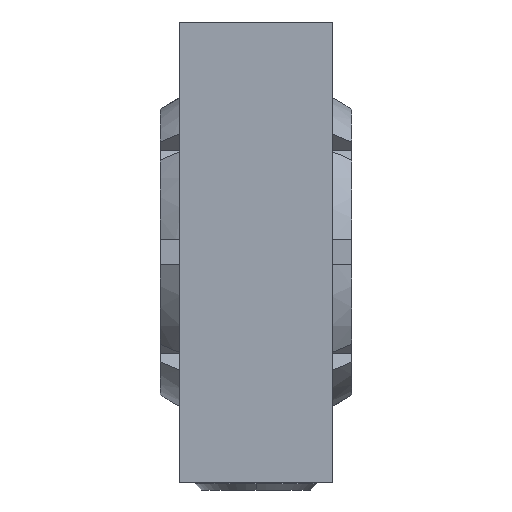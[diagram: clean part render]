
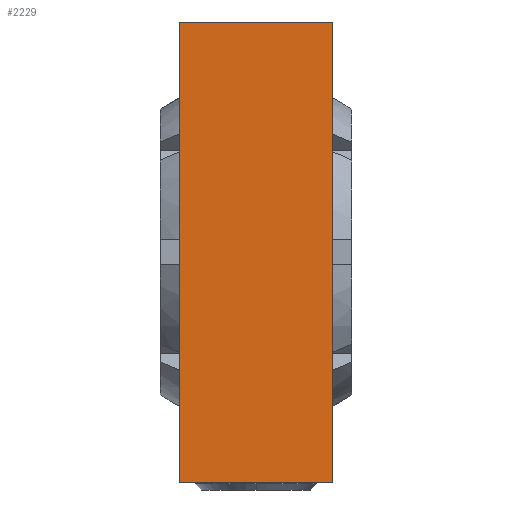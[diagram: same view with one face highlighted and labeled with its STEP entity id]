
A CAD part, left-side view. The second image highlights one B-rep face of the part: STEP entity #2229.
In plain terms, the highlighted planar face has unit normal (-1, 0, 0).
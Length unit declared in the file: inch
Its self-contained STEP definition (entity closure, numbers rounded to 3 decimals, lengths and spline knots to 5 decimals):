
#813 = AXIS2_PLACEMENT_3D ( 'NONE', #16915, #16914, #16913 ) ;
#1137 = CARTESIAN_POINT ( 'NONE',  ( -1., 0.5, -0.75 ) ) ;
#1578 = DIRECTION ( 'NONE',  ( 0., -1., 0. ) ) ;
#1579 = CARTESIAN_POINT ( 'NONE',  ( -1., 0.5, 0.75 ) ) ;
#1628 = DIRECTION ( 'NONE',  ( 0., 0., 1. ) ) ;
#1629 = CARTESIAN_POINT ( 'NONE',  ( -1., 0., 0.75 ) ) ;
#1662 = CARTESIAN_POINT ( 'NONE',  ( -1., 0., -0.75 ) ) ;
#1887 = EDGE_CURVE ( 'NONE', #11318, #11473, #2601, .T. ) ;
#2229 = ADVANCED_FACE ( 'NONE', ( #4130 ), #16916, .F. ) ;
#2601 = LINE ( 'NONE', #10125, #2602 ) ;
#2602 = VECTOR ( 'NONE', #10124, 39.37008 ) ;
#3212 = ORIENTED_EDGE ( 'NONE', *, *, #17404, .T. ) ;
#3213 = ORIENTED_EDGE ( 'NONE', *, *, #17432, .F. ) ;
#3214 = ORIENTED_EDGE ( 'NONE', *, *, #9563, .F. ) ;
#3215 = ORIENTED_EDGE ( 'NONE', *, *, #1887, .T. ) ;
#4130 = FACE_OUTER_BOUND ( 'NONE', #19129, .T. ) ;
#9563 = EDGE_CURVE ( 'NONE', #11318, #11206, #12228, .T. ) ;
#10124 = DIRECTION ( 'NONE',  ( 0., -1., 0. ) ) ;
#10125 = CARTESIAN_POINT ( 'NONE',  ( -1., 0.5, -0.75 ) ) ;
#11148 = VERTEX_POINT ( 'NONE', #18874 ) ;
#11206 = VERTEX_POINT ( 'NONE', #17546 ) ;
#11318 = VERTEX_POINT ( 'NONE', #1137 ) ;
#11473 = VERTEX_POINT ( 'NONE', #1662 ) ;
#12228 = LINE ( 'NONE', #18324, #12229 ) ;
#12229 = VECTOR ( 'NONE', #18323, 39.37008 ) ;
#12389 = LINE ( 'NONE', #1629, #12390 ) ;
#12390 = VECTOR ( 'NONE', #1628, 39.37008 ) ;
#12425 = LINE ( 'NONE', #1579, #12426 ) ;
#12426 = VECTOR ( 'NONE', #1578, 39.37008 ) ;
#16913 = DIRECTION ( 'NONE',  ( 0., 0., -1. ) ) ;
#16914 = DIRECTION ( 'NONE',  ( 1., 0., 0. ) ) ;
#16915 = CARTESIAN_POINT ( 'NONE',  ( -1., 0.5, 0.75 ) ) ;
#16916 = PLANE ( 'NONE',  #813 ) ;
#17404 = EDGE_CURVE ( 'NONE', #11473, #11148, #12389, .T. ) ;
#17432 = EDGE_CURVE ( 'NONE', #11206, #11148, #12425, .T. ) ;
#17546 = CARTESIAN_POINT ( 'NONE',  ( -1., 0.5, 0.75 ) ) ;
#18323 = DIRECTION ( 'NONE',  ( 0., 0., 1. ) ) ;
#18324 = CARTESIAN_POINT ( 'NONE',  ( -1., 0.5, 0.75 ) ) ;
#18874 = CARTESIAN_POINT ( 'NONE',  ( -1., 0., 0.75 ) ) ;
#19129 = EDGE_LOOP ( 'NONE', ( #3212, #3213, #3214, #3215 ) ) ;
